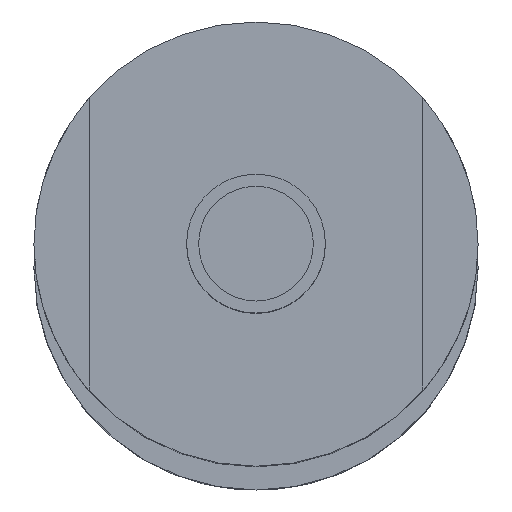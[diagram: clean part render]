
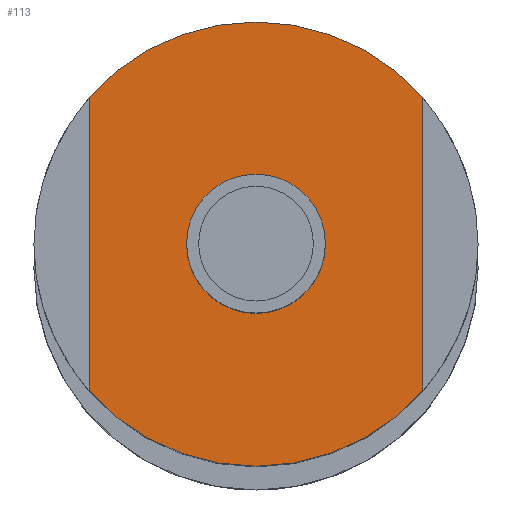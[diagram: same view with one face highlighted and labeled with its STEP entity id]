
A CAD part, top view. The second image highlights one B-rep face of the part: STEP entity #113.
In plain terms, the highlighted planar face has unit normal (0, 0, 1).
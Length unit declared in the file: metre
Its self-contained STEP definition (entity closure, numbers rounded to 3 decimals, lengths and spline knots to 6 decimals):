
#113=ADVANCED_FACE('17:304',(#222,#223),#224,.T.);
#222=FACE_BOUND('',#340,.T.);
#223=FACE_OUTER_BOUND('',#341,.T.);
#224=PLANE('',#342);
#340=EDGE_LOOP('',(#550,#551));
#341=EDGE_LOOP('',(#552,#553,#554,#555,#556,#557));
#342=AXIS2_PLACEMENT_3D('',#558,#559,#560);
#550=ORIENTED_EDGE('',*,*,#643,.T.);
#551=ORIENTED_EDGE('',*,*,#714,.T.);
#552=ORIENTED_EDGE('',*,*,#716,.F.);
#553=ORIENTED_EDGE('',*,*,#653,.F.);
#554=ORIENTED_EDGE('',*,*,#652,.F.);
#555=ORIENTED_EDGE('',*,*,#701,.T.);
#556=ORIENTED_EDGE('',*,*,#708,.F.);
#557=ORIENTED_EDGE('',*,*,#707,.F.);
#558=CARTESIAN_POINT('',(0.,0.,0.419));
#559=DIRECTION('',(0.0,0.0,1.0));
#560=DIRECTION('',(1.0,0.0,0.0));
#643=EDGE_CURVE('19:2123',#759,#756,#760,.F.);
#652=EDGE_CURVE('17:354',#774,#776,#777,.F.);
#653=EDGE_CURVE('17:345',#776,#778,#779,.F.);
#701=EDGE_CURVE('17:844',#774,#849,#850,.T.);
#707=EDGE_CURVE('17:351',#857,#859,#860,.F.);
#708=EDGE_CURVE('17:342',#859,#849,#861,.F.);
#714=EDGE_CURVE('',#756,#759,#867,.F.);
#716=EDGE_CURVE('17:790',#778,#857,#869,.F.);
#756=VERTEX_POINT('',#933);
#759=VERTEX_POINT('',#937);
#760=CIRCLE('',#938,0.0025);
#774=VERTEX_POINT('',#955);
#776=VERTEX_POINT('',#958);
#777=CIRCLE('',#959,0.008);
#778=VERTEX_POINT('',#960);
#779=CIRCLE('',#961,0.008);
#849=VERTEX_POINT('',#1046);
#850=LINE('',#1047,#1048);
#857=VERTEX_POINT('',#1057);
#859=VERTEX_POINT('',#1060);
#860=CIRCLE('',#1061,0.008);
#861=CIRCLE('',#1062,0.008);
#867=CIRCLE('',#1068,0.0025);
#869=LINE('',#1070,#1071);
#933=CARTESIAN_POINT('',(0.00239,0.000133,0.419));
#937=CARTESIAN_POINT('',(-0.00261,0.000133,0.419));
#938=AXIS2_PLACEMENT_3D('',#1144,#1145,#1146);
#955=CARTESIAN_POINT('',(-0.00611,0.005425,0.419));
#958=CARTESIAN_POINT('',(-0.00011,0.008133,0.419));
#959=AXIS2_PLACEMENT_3D('',#1160,#1161,#1162);
#960=CARTESIAN_POINT('',(0.00589,0.005425,0.419));
#961=AXIS2_PLACEMENT_3D('',#1163,#1164,#1165);
#1046=CARTESIAN_POINT('',(-0.00611,-0.005158,0.419));
#1047=CARTESIAN_POINT('',(-0.00611,0.000067,0.419));
#1048=VECTOR('',#1235,1.0);
#1057=CARTESIAN_POINT('',(0.00589,-0.005158,0.419));
#1060=CARTESIAN_POINT('',(-0.00011,-0.007867,0.419));
#1061=AXIS2_PLACEMENT_3D('',#1242,#1243,#1244);
#1062=AXIS2_PLACEMENT_3D('',#1245,#1246,#1247);
#1068=AXIS2_PLACEMENT_3D('',#1257,#1258,#1259);
#1070=CARTESIAN_POINT('',(0.00589,0.000067,0.419));
#1071=VECTOR('',#1260,1.0);
#1144=CARTESIAN_POINT('',(-0.00011,0.000133,0.419));
#1145=DIRECTION('',(0.0,0.0,1.0));
#1146=DIRECTION('',(1.0,0.0,-0.0));
#1160=CARTESIAN_POINT('',(-0.00011,0.000133,0.419));
#1161=DIRECTION('',(0.0,0.0,1.0));
#1162=DIRECTION('',(1.0,0.0,0.0));
#1163=CARTESIAN_POINT('',(-0.00011,0.000133,0.419));
#1164=DIRECTION('',(0.0,0.0,1.0));
#1165=DIRECTION('',(1.0,0.0,0.0));
#1235=DIRECTION('',(0.,-1.0,0.0));
#1242=CARTESIAN_POINT('',(-0.00011,0.000133,0.419));
#1243=DIRECTION('',(0.0,0.0,1.0));
#1244=DIRECTION('',(1.0,0.0,0.0));
#1245=CARTESIAN_POINT('',(-0.00011,0.000133,0.419));
#1246=DIRECTION('',(0.0,0.0,1.0));
#1247=DIRECTION('',(1.0,0.0,0.0));
#1257=CARTESIAN_POINT('',(-0.00011,0.000133,0.419));
#1258=DIRECTION('',(0.0,0.0,1.0));
#1259=DIRECTION('',(1.0,0.0,-0.0));
#1260=DIRECTION('',(0.,1.0,0.0));
